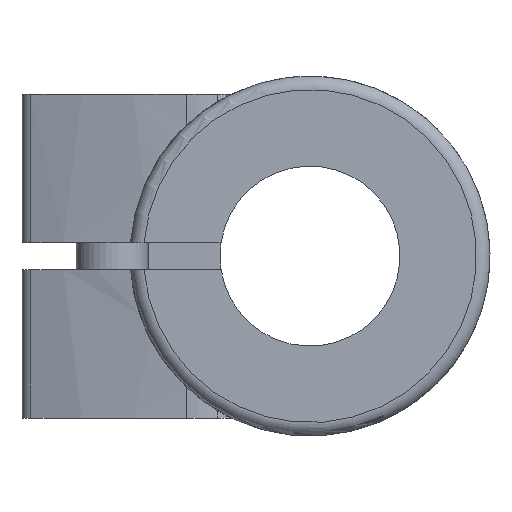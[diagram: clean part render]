
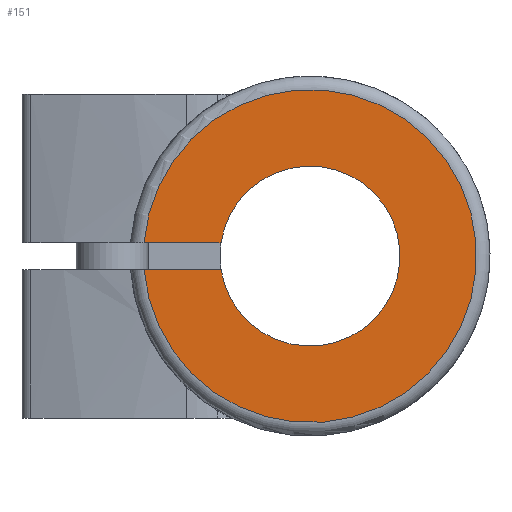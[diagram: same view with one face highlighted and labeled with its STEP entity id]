
A CAD part, left-side view. The second image highlights one B-rep face of the part: STEP entity #151.
In plain terms, the highlighted planar face has unit normal (-1, 0, 0).
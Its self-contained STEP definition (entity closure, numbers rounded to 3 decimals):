
#151 = ADVANCED_FACE( '', ( #411 ), #412, .F. );
#411 = FACE_OUTER_BOUND( '', #767, .T. );
#412 = PLANE( '', #768 );
#767 = EDGE_LOOP( '', ( #1644, #1645, #1646, #1647 ) );
#768 = AXIS2_PLACEMENT_3D( '', #1648, #1649, #1650 );
#1644 = ORIENTED_EDGE( '', *, *, #2591, .F. );
#1645 = ORIENTED_EDGE( '', *, *, #2546, .F. );
#1646 = ORIENTED_EDGE( '', *, *, #2593, .F. );
#1647 = ORIENTED_EDGE( '', *, *, #2556, .F. );
#1648 = CARTESIAN_POINT( '', ( 0., 0., 0. ) );
#1649 = DIRECTION( '', ( 1., 0., 0. ) );
#1650 = DIRECTION( '', ( 0., 0., -1. ) );
#2546 = EDGE_CURVE( '', #3180, #3181, #3182, .T. );
#2556 = EDGE_CURVE( '', #3195, #3197, #3198, .T. );
#2591 = EDGE_CURVE( '', #3181, #3195, #3260, .F. );
#2593 = EDGE_CURVE( '', #3197, #3180, #3262, .T. );
#3180 = VERTEX_POINT( '', #4337 );
#3181 = VERTEX_POINT( '', #4338 );
#3182 = LINE( '', #4339, #4340 );
#3195 = VERTEX_POINT( '', #4370 );
#3197 = VERTEX_POINT( '', #4373 );
#3198 = LINE( '', #4374, #4375 );
#3260 = CIRCLE( '', #4583, 10. );
#3262 = CIRCLE( '', #4585, 18.5 );
#4337 = CARTESIAN_POINT( '', ( 0., 18.439, -1.5 ) );
#4338 = CARTESIAN_POINT( '', ( 0., 9.887, -1.5 ) );
#4339 = CARTESIAN_POINT( '', ( 0., 0., -1.5 ) );
#4340 = VECTOR( '', #5288, 1000. );
#4370 = CARTESIAN_POINT( '', ( 0., 9.887, 1.5 ) );
#4373 = CARTESIAN_POINT( '', ( 0., 18.439, 1.5 ) );
#4374 = CARTESIAN_POINT( '', ( 0., 0., 1.5 ) );
#4375 = VECTOR( '', #5303, 1000. );
#4583 = AXIS2_PLACEMENT_3D( '', #5351, #5352, #5353 );
#4585 = AXIS2_PLACEMENT_3D( '', #5357, #5358, #5359 );
#5288 = DIRECTION( '', ( 0., -1., 0. ) );
#5303 = DIRECTION( '', ( 0., 1., 0. ) );
#5351 = CARTESIAN_POINT( '', ( 0., 0., 0. ) );
#5352 = DIRECTION( '', ( 1., 0., 0. ) );
#5353 = DIRECTION( '', ( 0., 0., -1. ) );
#5357 = CARTESIAN_POINT( '', ( 0., 0., 0. ) );
#5358 = DIRECTION( '', ( 1., 0., 0. ) );
#5359 = DIRECTION( '', ( 0., 0., -1. ) );
